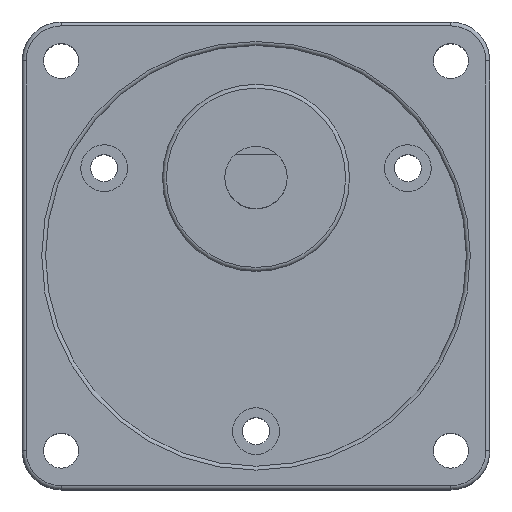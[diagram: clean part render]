
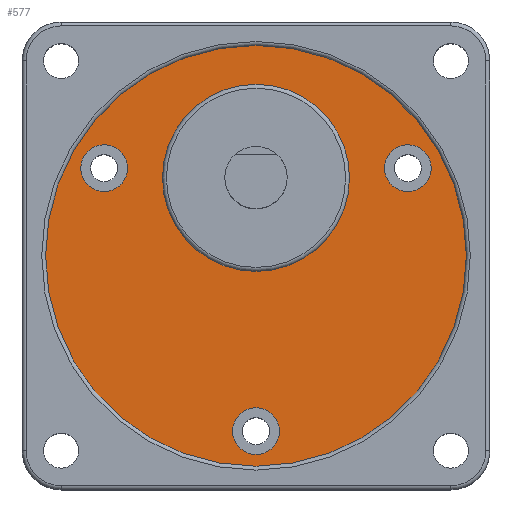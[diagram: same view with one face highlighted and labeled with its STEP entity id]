
A CAD part, top view. The second image highlights one B-rep face of the part: STEP entity #577.
In plain terms, the highlighted planar face has unit normal (0, 0, 1).
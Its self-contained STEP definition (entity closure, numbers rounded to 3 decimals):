
#255=CARTESIAN_POINT('',(27.0,0.,29.5));
#256=VERTEX_POINT('',#255);
#257=CARTESIAN_POINT('',(0.0,0.0,29.5));
#258=DIRECTION('',(0.0,0.0,1.0));
#259=DIRECTION('',(-1.0,0.0,0.0));
#260=AXIS2_PLACEMENT_3D('',#257,#258,#259);
#261=CIRCLE('',#260,27.0);
#262=EDGE_CURVE('',#256,#256,#261,.T.);
#405=CARTESIAN_POINT('',(-20.986,8.652,29.5));
#406=VERTEX_POINT('',#405);
#407=CARTESIAN_POINT('',(-19.486,11.25,29.5));
#408=DIRECTION('',(0.0,0.0,-1.0));
#409=DIRECTION('',(0.5,0.866,0.0));
#410=AXIS2_PLACEMENT_3D('',#407,#408,#409);
#411=CIRCLE('',#410,3.0);
#412=EDGE_CURVE('',#406,#406,#411,.T.);
#465=CARTESIAN_POINT('',(17.986,13.848,29.5));
#466=VERTEX_POINT('',#465);
#467=CARTESIAN_POINT('',(19.486,11.25,29.5));
#468=DIRECTION('',(0.0,0.0,-1.0));
#469=DIRECTION('',(0.5,-0.866,0.0));
#470=AXIS2_PLACEMENT_3D('',#467,#468,#469);
#471=CIRCLE('',#470,3.0);
#472=EDGE_CURVE('',#466,#466,#471,.T.);
#525=CARTESIAN_POINT('',(3.0,-22.5,29.5));
#526=VERTEX_POINT('',#525);
#527=CARTESIAN_POINT('',(0.0,-22.5,29.5));
#528=DIRECTION('',(0.0,0.0,-1.0));
#529=DIRECTION('',(-1.0,0.0,0.0));
#530=AXIS2_PLACEMENT_3D('',#527,#528,#529);
#531=CIRCLE('',#530,3.0);
#532=EDGE_CURVE('',#526,#526,#531,.T.);
#549=CARTESIAN_POINT('',(0.0,0.0,29.5));
#550=DIRECTION('',(0.0,0.0,-1.0));
#551=DIRECTION('',(-1.0,0.0,0.0));
#552=AXIS2_PLACEMENT_3D('',#549,#550,#551);
#553=PLANE('',#552);
#554=ORIENTED_EDGE('',*,*,#262,.T.);
#555=EDGE_LOOP('',(#554));
#556=FACE_OUTER_BOUND('',#555,.T.);
#557=ORIENTED_EDGE('',*,*,#412,.T.);
#558=EDGE_LOOP('',(#557));
#559=FACE_BOUND('',#558,.T.);
#560=ORIENTED_EDGE('',*,*,#472,.T.);
#561=EDGE_LOOP('',(#560));
#562=FACE_BOUND('',#561,.T.);
#563=ORIENTED_EDGE('',*,*,#532,.T.);
#564=EDGE_LOOP('',(#563));
#565=FACE_BOUND('',#564,.T.);
#566=CARTESIAN_POINT('',(12.,10.,29.5));
#567=VERTEX_POINT('',#566);
#568=CARTESIAN_POINT('',(0.0,10.0,29.5));
#569=DIRECTION('',(0.0,0.0,1.0));
#570=DIRECTION('',(-1.0,0.0,0.0));
#571=AXIS2_PLACEMENT_3D('',#568,#569,#570);
#572=CIRCLE('',#571,12.);
#573=EDGE_CURVE('',#567,#567,#572,.T.);
#574=ORIENTED_EDGE('',*,*,#573,.F.);
#575=EDGE_LOOP('',(#574));
#576=FACE_BOUND('',#575,.T.);
#577=ADVANCED_FACE('',(#556,#559,#562,#565,#576),#553,.F.);
